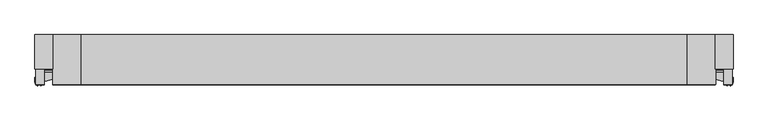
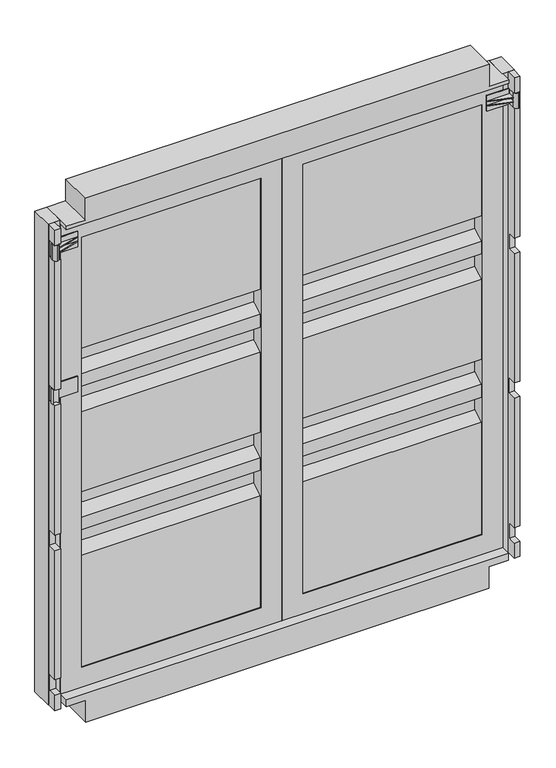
"""IFC4 building model written with IfcOpenShell, lengths in millimetres: proxy geometry, Left_Wall_Container_Config-6 : Left_Wall_Container_Config-6."""

from ifc_helpers import new_model, si_unit, point, frame, frame_2d, origin, place, context, project, spatial, polyline, circle_curve, trimmed, segment, composite_curve, outline, extrude, faceted_brep, source, transform, mapped, element, save
from ifc_brep_helpers import plane_surface, revolved_surface, advanced_brep


def generic_models_1ea03f89(model_context):
    return source(origin(), model_context, "Body", "SolidModel", [
        advanced_brep(
        [(-1190.3486779, 9.8097587, 1890.0), (-1190.3486779, 44.8052445, 1890.0), (-1070.3486761, 44.8052445, 1890.0), (-1070.3486761, 49.8052437, 1890.0), (-1200.3486762, 49.8052437, 1890.0), (-1200.3486762, 44.8052445, 1890.0), (-1220.3486772, 24.8052434, 1890.0), (-1220.3486772, 9.8052437, 1890.0), (-1190.3486779, 9.8007288, 1805.0), (-1220.3486772, 9.8052437, 1805.0), (-1220.3486772, 24.8052434, 1805.0), (-1200.3486762, 44.8052445, 1805.0), (-1200.3486762, 49.8052437, 1805.0), (-1070.3486761, 49.8052437, 1805.0), (-1070.3486761, 44.8052445, 1805.0), (-1190.3486779, 44.8052445, 1805.0)],
        [
            (0, 1),
            (1, 2),
            (2, 3),
            (3, 4),
            (4, 5),
            (5, 6),
            (6, 7),
            (7, 0, circle_curve(frame((-1205.3486772, 9.8052437, 1890.0), z_axis=(0.0, 0.0, -1.0), x_axis=(1.0, 0.0, 0.0)), 15.0)),
            (8, 9, circle_curve(frame((-1205.3486772, 9.8052437, 1805.0), z_axis=(0.0, 0.0, 1.0), x_axis=(1.0, 0.0, 0.0)), 15.0)),
            (9, 10),
            (10, 11),
            (11, 12),
            (12, 13),
            (13, 14),
            (14, 15),
            (15, 8),
            (0, 8),
            (15, 1),
            (14, 2),
            (13, 3),
            (12, 4),
            (11, 5),
            (10, 6),
            (9, 7),
        ],
        [
            plane_surface(frame((-1190.3486779, 44.8052445, 1890.0), z_axis=(0.0, 0.0, 1.0), x_axis=(0.0, 1.0, 0.0))),
            plane_surface(frame((-1190.3486779, 44.8052445, 1805.0), z_axis=(0.0, 0.0, -1.0), x_axis=(0.0, -1.0, 0.0))),
            plane_surface(frame((-1190.3486779, 9.8097587, 1890.0), z_axis=(1.0, 0.0, 0.0), x_axis=(0.0, 0.0, -1.0))),
            plane_surface(frame((-1190.3486779, 44.8052445, 1890.0), z_axis=(0.0, -1.0, 0.0), x_axis=(0.0, 0.0, -1.0))),
            plane_surface(frame((-1070.3486761, 44.8052445, 1890.0), z_axis=(1.0, 0.0, 0.0), x_axis=(0.0, 0.0, -1.0))),
            plane_surface(frame((-1070.3486761, 49.8052437, 1890.0), z_axis=(0.0, 1.0, 0.0), x_axis=(0.0, 0.0, -1.0))),
            plane_surface(frame((-1200.3486762, 49.8052437, 1890.0), z_axis=(-1.0, 0.0, 0.0), x_axis=(0.0, 0.0, -1.0))),
            plane_surface(frame((-1200.3486762, 44.8052445, 1890.0), z_axis=(-0.7071067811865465, 0.7071067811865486, 0.0), x_axis=(0.0, 0.0, -1.0))),
            plane_surface(frame((-1220.3486772, 24.8052434, 1890.0), z_axis=(-1.0, 0.0, 0.0), x_axis=(0.0, 0.0, -1.0))),
            revolved_surface(polyline([(-1190.3486772, 9.8052437, 1805.0), (-1190.3486772, 9.8052437, 1890.0)]), (-1205.3486772, 9.8052437, 1805.0), (0.0, 0.0, -1.0)),
        ],
        [
            (0, [[1, 2, 3, 4, 5, 6, 7, 8]]),
            (1, [[9, 10, 11, 12, 13, 14, 15, 16]]),
            (2, [[-1, 17, -16, 18]]),
            (3, [[-2, -18, -15, 19]]),
            (4, [[-3, -19, -14, 20]]),
            (5, [[-4, -20, -13, 21]]),
            (6, [[-5, -21, -12, 22]]),
            (7, [[-6, -22, -11, 23]]),
            (8, [[-7, -23, -10, 24]]),
            (9, [[-8, -24, -9, -17]]),
        ],
    ),
        extrude(outline(composite_curve([segment(trimmed(circle_curve(frame_2d((1204.6513228, 9.8052437)), 15.0), [point((1204.6513228, -5.1947563))], [point((1204.6513228, 24.8052437))], False, "CARTESIAN"), True, "CONTINUOUS"), segment(trimmed(circle_curve(frame_2d((1204.6513228, 9.8052437)), 15.0), [point((1204.6513228, 24.8052437))], [point((1204.6513228, -5.1947563))], False, "CARTESIAN"), True, "CONTINUOUS")], self_intersect=False), holes=[composite_curve([segment(trimmed(circle_curve(frame_2d((1204.6513228, 9.8052437)), 14.0), [point((1204.6513228, -4.1947563))], [point((1204.6513228, 23.8052437))], True, "CARTESIAN"), True, "CONTINUOUS"), segment(trimmed(circle_curve(frame_2d((1204.6513228, 9.8052437)), 14.0), [point((1204.6513228, 23.8052437))], [point((1204.6513228, -4.1947563))], True, "CARTESIAN"), True, "CONTINUOUS")], self_intersect=False)]), frame((0.0, 0.0, 2605.0), z_axis=(0.0, 0.0, 1.0), x_axis=(1.0, 0.0, 0.0)), (0.0, 0.0, 1.0), 85.0),
        extrude(outline(polyline([(1189.6513234, 9.8052437), (1069.6513216, 44.8052445), (1189.6513234, 44.8052445), (1189.6513234, 9.8052437)])), frame((0.0, 0.0, 2633.0), z_axis=(0.0, 0.0, 1.0), x_axis=(1.0, 0.0, 0.0)), (0.0, 0.0, 1.0), 5.0),
        extrude(outline(polyline([(1189.6513234, 44.8052445), (1189.6513234, 9.8052437), (1069.6513216, 44.8052445), (1189.6513234, 44.8052445)])), frame((0.0, 0.0, 2657.0), z_axis=(0.0, 0.0, 1.0), x_axis=(1.0, 0.0, 0.0)), (0.0, 0.0, 1.0), 5.0),
        advanced_brep(
        [(1189.6513234, 9.8007288, 2690.0), (1219.6513228, 9.8052437, 2690.0), (1219.6513228, 24.8052434, 2690.0), (1199.6513217, 44.8052445, 2690.0), (1199.6513217, 49.8052437, 2690.0), (1069.6513216, 49.8052437, 2690.0), (1069.6513216, 44.8052445, 2690.0), (1189.6513234, 44.8052445, 2690.0), (1189.6513234, 9.8097587, 2605.0), (1189.6513234, 44.8052445, 2605.0), (1069.6513216, 44.8052445, 2605.0), (1069.6513216, 49.8052437, 2605.0), (1199.6513217, 49.8052437, 2605.0), (1199.6513217, 44.8052445, 2605.0), (1219.6513228, 24.8052434, 2605.0), (1219.6513228, 9.8052437, 2605.0)],
        [
            (0, 1, circle_curve(frame((1204.6513228, 9.8052437, 2690.0), z_axis=(0.0, 0.0, -1.0), x_axis=(-1.0, 0.0, 0.0)), 15.0)),
            (1, 2),
            (2, 3),
            (3, 4),
            (4, 5),
            (5, 6),
            (6, 7),
            (7, 0),
            (8, 9),
            (9, 10),
            (10, 11),
            (11, 12),
            (12, 13),
            (13, 14),
            (14, 15),
            (15, 8, circle_curve(frame((1204.6513228, 9.8052437, 2605.0), z_axis=(0.0, 0.0, 1.0), x_axis=(-1.0, 0.0, 0.0)), 15.0)),
            (7, 9),
            (8, 0),
            (6, 10),
            (5, 11),
            (4, 12),
            (3, 13),
            (2, 14),
            (1, 15),
        ],
        [
            plane_surface(frame((1189.6513234, 44.8052445, 2690.0), z_axis=(0.0, 0.0, 1.0), x_axis=(0.0, 1.0, 0.0))),
            plane_surface(frame((1189.6513234, 44.8052445, 2605.0), z_axis=(0.0, 0.0, -1.0), x_axis=(0.0, -1.0, 0.0))),
            plane_surface(frame((1189.6513234, 9.8097587, 2690.0), z_axis=(-1.0, 0.0, 0.0), x_axis=(0.0, 0.0, -1.0))),
            plane_surface(frame((1189.6513234, 44.8052445, 2690.0), z_axis=(0.0, -1.0, 0.0), x_axis=(0.0, 0.0, -1.0))),
            plane_surface(frame((1069.6513216, 44.8052445, 2690.0), z_axis=(-1.0, 0.0, 0.0), x_axis=(0.0, 0.0, -1.0))),
            plane_surface(frame((1069.6513216, 49.8052437, 2690.0), z_axis=(0.0, 1.0, 0.0), x_axis=(0.0, 0.0, -1.0))),
            plane_surface(frame((1199.6513217, 49.8052437, 2690.0), z_axis=(1.0, 0.0, 0.0), x_axis=(0.0, 0.0, -1.0))),
            plane_surface(frame((1199.6513217, 44.8052445, 2690.0), z_axis=(0.7071067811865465, 0.7071067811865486, 0.0), x_axis=(0.0, 0.0, -1.0))),
            plane_surface(frame((1219.6513228, 24.8052434, 2690.0), z_axis=(1.0, 0.0, 0.0), x_axis=(0.0, 0.0, -1.0))),
            revolved_surface(polyline([(1189.6513228, 9.8052437, 2605.0), (1189.6513228, 9.8052437, 2690.0)]), (1204.6513228, 9.8052437, 2605.0), (0.0, 0.0, -1.0)),
        ],
        [
            (0, [[1, 2, 3, 4, 5, 6, 7, 8]]),
            (1, [[9, 10, 11, 12, 13, 14, 15, 16]]),
            (2, [[17, -9, 18, -8]]),
            (3, [[19, -10, -17, -7]]),
            (4, [[20, -11, -19, -6]]),
            (5, [[21, -12, -20, -5]]),
            (6, [[22, -13, -21, -4]]),
            (7, [[23, -14, -22, -3]]),
            (8, [[24, -15, -23, -2]]),
            (9, [[-18, -16, -24, -1]]),
        ],
    ),
        extrude(outline(composite_curve([segment(trimmed(circle_curve(frame_2d((-1205.3486772, 9.8052437)), 15.0), [point((-1205.3486772, -5.1947563))], [point((-1205.3486772, 24.8052437))], False, "CARTESIAN"), True, "CONTINUOUS"), segment(trimmed(circle_curve(frame_2d((-1205.3486772, 9.8052437)), 15.0), [point((-1205.3486772, 24.8052437))], [point((-1205.3486772, -5.1947563))], False, "CARTESIAN"), True, "CONTINUOUS")], self_intersect=False), holes=[composite_curve([segment(trimmed(circle_curve(frame_2d((-1205.3486772, 9.8052437)), 14.0), [point((-1205.3486772, -4.1947563))], [point((-1205.3486772, 23.8052437))], True, "CARTESIAN"), True, "CONTINUOUS"), segment(trimmed(circle_curve(frame_2d((-1205.3486772, 9.8052437)), 14.0), [point((-1205.3486772, 23.8052437))], [point((-1205.3486772, -4.1947563))], True, "CARTESIAN"), True, "CONTINUOUS")], self_intersect=False)]), frame((0.0, 0.0, 2605.0), z_axis=(0.0, 0.0, 1.0), x_axis=(1.0, 0.0, 0.0)), (0.0, 0.0, 1.0), 85.0),
        extrude(outline(polyline([(-1190.3486779, 9.8052437), (-1190.3486779, 44.8052445), (-1070.3486761, 44.8052445), (-1190.3486779, 9.8052437)])), frame((0.0, 0.0, 2633.0), z_axis=(0.0, 0.0, 1.0), x_axis=(1.0, 0.0, 0.0)), (0.0, 0.0, 1.0), 5.0),
        extrude(outline(polyline([(-1190.3486779, 44.8052445), (-1070.3486761, 44.8052445), (-1190.3486779, 9.8052437), (-1190.3486779, 44.8052445)])), frame((0.0, 0.0, 2657.0), z_axis=(0.0, 0.0, 1.0), x_axis=(1.0, 0.0, 0.0)), (0.0, 0.0, 1.0), 5.0),
        advanced_brep(
        [(-1190.3486779, 9.8097587, 2690.0), (-1190.3486779, 44.8052445, 2690.0), (-1070.3486761, 44.8052445, 2690.0), (-1070.3486761, 49.8052437, 2690.0), (-1200.3486762, 49.8052437, 2690.0), (-1200.3486762, 44.8052445, 2690.0), (-1220.3486772, 24.8052434, 2690.0), (-1220.3486772, 9.8052437, 2690.0), (-1190.3486779, 9.8007288, 2605.0), (-1220.3486772, 9.8052437, 2605.0), (-1220.3486772, 24.8052434, 2605.0), (-1200.3486762, 44.8052445, 2605.0), (-1200.3486762, 49.8052437, 2605.0), (-1070.3486761, 49.8052437, 2605.0), (-1070.3486761, 44.8052445, 2605.0), (-1190.3486779, 44.8052445, 2605.0)],
        [
            (0, 1),
            (1, 2),
            (2, 3),
            (3, 4),
            (4, 5),
            (5, 6),
            (6, 7),
            (7, 0, circle_curve(frame((-1205.3486772, 9.8052437, 2690.0), z_axis=(0.0, 0.0, -1.0), x_axis=(1.0, 0.0, 0.0)), 15.0)),
            (8, 9, circle_curve(frame((-1205.3486772, 9.8052437, 2605.0), z_axis=(0.0, 0.0, 1.0), x_axis=(1.0, 0.0, 0.0)), 15.0)),
            (9, 10),
            (10, 11),
            (11, 12),
            (12, 13),
            (13, 14),
            (14, 15),
            (15, 8),
            (0, 8),
            (15, 1),
            (14, 2),
            (13, 3),
            (12, 4),
            (11, 5),
            (10, 6),
            (9, 7),
        ],
        [
            plane_surface(frame((-1190.3486779, 44.8052445, 2690.0), z_axis=(0.0, 0.0, 1.0), x_axis=(0.0, 1.0, 0.0))),
            plane_surface(frame((-1190.3486779, 44.8052445, 2605.0), z_axis=(0.0, 0.0, -1.0), x_axis=(0.0, -1.0, 0.0))),
            plane_surface(frame((-1190.3486779, 9.8097587, 2690.0), z_axis=(1.0, 0.0, 0.0), x_axis=(0.0, 0.0, -1.0))),
            plane_surface(frame((-1190.3486779, 44.8052445, 2690.0), z_axis=(0.0, -1.0, 0.0), x_axis=(0.0, 0.0, -1.0))),
            plane_surface(frame((-1070.3486761, 44.8052445, 2690.0), z_axis=(1.0, 0.0, 0.0), x_axis=(0.0, 0.0, -1.0))),
            plane_surface(frame((-1070.3486761, 49.8052437, 2690.0), z_axis=(0.0, 1.0, 0.0), x_axis=(0.0, 0.0, -1.0))),
            plane_surface(frame((-1200.3486762, 49.8052437, 2690.0), z_axis=(-1.0, 0.0, 0.0), x_axis=(0.0, 0.0, -1.0))),
            plane_surface(frame((-1200.3486762, 44.8052445, 2690.0), z_axis=(-0.7071067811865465, 0.7071067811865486, 0.0), x_axis=(0.0, 0.0, -1.0))),
            plane_surface(frame((-1220.3486772, 24.8052434, 2690.0), z_axis=(-1.0, 0.0, 0.0), x_axis=(0.0, 0.0, -1.0))),
            revolved_surface(polyline([(-1190.3486772, 9.8052437, 2605.0), (-1190.3486772, 9.8052437, 2690.0)]), (-1205.3486772, 9.8052437, 2605.0), (0.0, 0.0, -1.0)),
        ],
        [
            (0, [[1, 2, 3, 4, 5, 6, 7, 8]]),
            (1, [[9, 10, 11, 12, 13, 14, 15, 16]]),
            (2, [[-1, 17, -16, 18]]),
            (3, [[-2, -18, -15, 19]]),
            (4, [[-3, -19, -14, 20]]),
            (5, [[-4, -20, -13, 21]]),
            (6, [[-5, -21, -12, 22]]),
            (7, [[-6, -22, -11, 23]]),
            (8, [[-7, -23, -10, 24]]),
            (9, [[-8, -24, -9, -17]]),
        ],
    ),
        extrude(outline(polyline([(1219.6513228, 174.805244), (1219.6513228, 54.8052524), (1156.6513228, 54.8052524), (1156.6513228, 174.805244), (1219.6513228, 174.805244)])), frame((0.0, 0.0, 119.9999973), z_axis=(0.0, 0.0, 1.0), x_axis=(1.0, 0.0, 0.0)), (0.0, 0.0, 1.0), 2656.0000054),
        extrude(outline(polyline([(-1157.3486746, 54.8052437), (-1220.3486772, 54.8052437), (-1220.3486772, 174.805244), (-1157.3486746, 174.805244), (-1157.3486746, 54.8052437)])), frame((0.0, 0.0, 119.9999973), z_axis=(0.0, 0.0, 1.0), x_axis=(1.0, 0.0, 0.0)), (0.0, 0.0, 1.0), 2656.0000054),
        extrude(outline(polyline([(54.8052437, 2029.0), (54.8052437, 2646.0000298), (119.8052437, 2646.0000298), (119.8052437, 270.0), (54.8052437, 270.0), (54.8052437, 886.9999844), (114.8052424, 922.0000282), (114.8052424, 992.0000008), (54.8052437, 1027.0), (54.8052437, 1097.0), (114.8052437, 1132.0), (114.8052437, 1202.000015), (54.8052437, 1236.999987), (54.8052437, 1679.0), (114.8052437, 1714.0), (114.8052437, 1784.0000282), (54.8052437, 1818.9999275), (54.8052437, 1889.0000153), (114.8052424, 1924.0000591), (114.8052424, 1994.0000008), (54.8052437, 2029.0)])), frame((-1047.3486772, 0.0, 0.0), z_axis=(1.0, 0.0, 0.0), x_axis=(0.0, 1.0, 0.0)), (0.0, 0.0, 1.0), 937.0),
        extrude(outline(polyline([(54.8052437, 2029.0), (54.8052437, 2646.0000298), (119.8052437, 2646.0000298), (119.8052437, 270.0), (54.8052437, 270.0), (54.8052437, 886.9999844), (114.8052424, 922.0000282), (114.8052424, 992.0000008), (54.8052437, 1027.0), (54.8052437, 1097.0), (114.8052437, 1132.0), (114.8052437, 1202.000015), (54.8052437, 1236.999987), (54.8052437, 1679.0), (114.8052437, 1714.0), (114.8052437, 1784.0000282), (54.8052437, 1818.9999275), (54.8052437, 1889.0000153), (114.8052424, 1924.0000591), (114.8052424, 1994.0000008), (54.8052437, 2029.0)])), frame((109.6513228, 0.0, 0.0), z_axis=(1.0, 0.0, 0.0), x_axis=(0.0, 1.0, 0.0)), (0.0, 0.0, 1.0), 937.0),
        extrude(outline(polyline([(0.0, 1054.6513288), (119.9999973, 1054.6513288), (119.9999973, 1156.6513228), (160.0, 1156.6513228), (160.0, -1157.3486746), (119.9999973, -1157.3486746), (119.9999973, -1055.3486772), (0.0, -1055.3486772), (0.0, 1054.6513288)])), frame((0.0, -0.194756, 0.0), z_axis=(0.0, 1.0, 0.0), x_axis=(0.0, 0.0, 1.0)), (0.0, 0.0, 1.0), 175.0),
        extrude(outline(polyline([(2755.9999733, -1157.3486746), (2755.9999733, 1159.6513228), (2776.0000027, 1159.6513228), (2776.0000027, 1057.6513273), (2896.0000029, 1057.6513273), (2896.0000029, -1058.3486818), (2776.0000027, -1058.3486818), (2776.0000027, -1157.3486746), (2755.9999733, -1157.3486746)])), frame((0.0, -0.194756, 0.0), z_axis=(0.0, 1.0, 0.0), x_axis=(0.0, 0.0, 1.0)), (0.0, 0.0, 1.0), 175.0),
        extrude(outline(polyline([(-0.1947557, 2690.0), (-0.1947557, 2776.0000027), (54.8052437, 2776.0000027), (54.8052437, 119.9999973), (-0.194756, 119.9999973), (-0.194756, 205.0), (44.8052445, 205.0), (44.8052445, 290.0), (-0.194756, 290.0), (-0.194756, 1005.0), (49.8052437, 1005.0), (49.8052437, 1090.0), (-0.194756, 1090.0), (-0.194756, 1805.0), (44.8052445, 1805.0), (44.8052445, 1890.0), (-0.194756, 1890.0), (-0.194756, 2605.0), (44.8052445, 2605.0), (44.8052445, 2690.0), (-0.1947557, 2690.0)])), frame((-1217.3486772, 0.0, 0.0), z_axis=(1.0, 0.0, 0.0), x_axis=(0.0, 1.0, 0.0)), (0.0, 0.0, 1.0), 30.0),
        extrude(outline(polyline([(-0.1947557, 2690.0), (-0.1947557, 2776.0000027), (54.8052437, 2776.0000027), (54.8052437, 119.9999973), (-0.194756, 119.9999973), (-0.194756, 205.0), (44.8052445, 205.0), (44.8052445, 290.0), (-0.194756, 290.0), (-0.194756, 1005.0), (49.8052437, 1005.0), (49.8052437, 1090.0), (-0.194756, 1090.0), (-0.194756, 1805.0), (44.8052445, 1805.0), (44.8052445, 1890.0), (-0.194756, 1890.0), (-0.194756, 2605.0), (44.8052445, 2605.0), (44.8052445, 2690.0), (-0.1947557, 2690.0)])), frame((1186.6513228, 0.0, 0.0), z_axis=(1.0, 0.0, 0.0), x_axis=(0.0, 1.0, 0.0)), (0.0, 0.0, 1.0), 30.0),
        faceted_brep([(-1.3486772, 174.805244, 2755.9999733), (-1.3486772, 174.805244, 160.0), (-1157.3486772, 174.805244, 160.0), (-1157.3486772, 174.805244, 2755.9999733), (-1047.3486796, 174.805244, 270.0), (-110.348641, 174.805244, 270.0), (-110.348641, 174.805244, 2646.0000298), (-1047.3486796, 174.805244, 2646.0000298), (-1.3486772, 49.805244, 2755.9999733), (-1157.3486772, 49.805244, 2755.9999733), (-1157.3486772, 49.805244, 160.0), (-1.3486772, 49.805244, 160.0), (-1047.3486796, 49.805244, 270.0), (-1047.3486796, 49.805244, 2646.0000298), (-110.348641, 49.805244, 2646.0000298), (-110.348641, 49.805244, 270.0)], [[[0, 1, 2, 3], [4, 5, 6, 7]], [[8, 9, 10, 11], [12, 13, 14, 15]], [[9, 8, 0, 3]], [[10, 9, 3, 2]], [[11, 10, 2, 1]], [[8, 11, 1, 0]], [[13, 12, 4, 7]], [[14, 13, 7, 6]], [[15, 14, 6, 5]], [[12, 15, 5, 4]]]),
        faceted_brep([(-0.3486772, 174.805244, 160.0), (-0.3486772, 174.805244, 2755.9999733), (1156.6513228, 174.805244, 2755.9999733), (1156.6513228, 174.805244, 160.0000011), (1046.6513252, 174.805244, 270.0), (1046.6513252, 174.805244, 2646.0000298), (109.6512865, 174.805244, 2646.0000298), (109.6512865, 174.805244, 270.0), (-0.3486772, 49.805244, 160.0000011), (1156.6513228, 49.805244, 160.0000011), (1156.6513228, 49.805244, 2755.9999733), (-0.3486772, 49.805244, 2755.9999733), (1046.6513252, 49.805244, 270.0), (109.6512865, 49.805244, 270.0), (109.6512865, 49.805244, 2646.0000298), (1046.6513252, 49.805244, 2646.0000298)], [[[0, 1, 2, 3], [4, 5, 6, 7]], [[8, 9, 10, 11], [12, 13, 14, 15]], [[9, 8, 0, 3]], [[10, 9, 3, 2]], [[11, 10, 2, 1]], [[8, 11, 1, 0]], [[13, 12, 4, 7]], [[14, 13, 7, 6]], [[15, 14, 6, 5]], [[12, 15, 5, 4]]]),
    ])


if __name__ == "__main__":
    model = new_model("IFC4")
    model_context = context("Model", 3, world=origin())
    ifc_project = project(units=[si_unit("LENGTHUNIT", "METRE", prefix="MILLI")], contexts=[model_context])
    site = spatial("IfcSite", under=ifc_project)
    building = spatial("IfcBuilding", under=site)
    placement = place(None, origin())
    generic_models_shape = generic_models_1ea03f89(model_context)
    element("IfcBuildingElementProxy", 1, Name="Left_Wall_Container_Config-6 : Left_Wall_Container_Config-6", ObjectType="Left_Wall_Container_Config-6 : Left_Wall_Container_Config-6", at=placement, inside=building, context=model_context, shape_type="MappedRepresentation", body=[
        mapped(generic_models_shape, transform((0.0, 0.0, 0.0), x_axis=(1.0, 0.0, 0.0), y_axis=(0.0, 1.0, 0.0), z_axis=(0.0, 0.0, 1.0))),
    ])
    save(model, "model.ifc")
